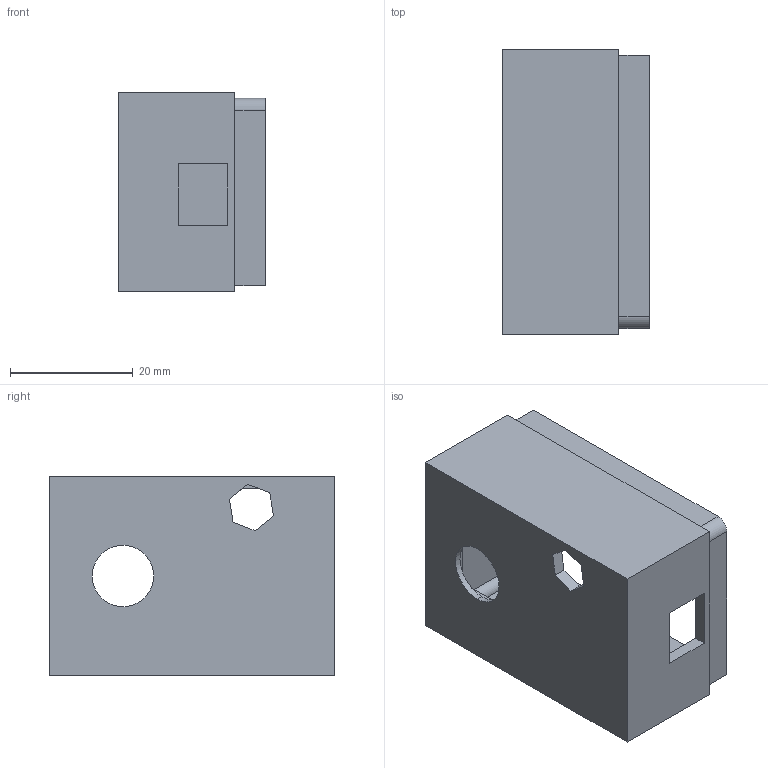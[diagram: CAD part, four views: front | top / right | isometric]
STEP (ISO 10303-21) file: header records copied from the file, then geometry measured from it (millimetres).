
FILE_DESCRIPTION (( 'STEP AP214' ), '1' );
FILE_NAME ('espcam.STEP', '2025-11-06T14:26:50', ( '' ), ( '' ), 'SwSTEP 2.0', 'SolidWorks 2023', '' );
FILE_SCHEMA (( 'AUTOMOTIVE_DESIGN' ));
Length unit declared in the file: millimetre
Products named in the file (1): espcam
Bounding box: 23.94 x 46.5 x 32.5 mm (x, y, z)
Volume: 8463.8 mm3; surface area: 9646.6 mm2
Topology: 1 solids, 1 shells, 41 faces, 111 edges, 74 vertices
Faces by surface type: plane 35, cylinder 6
Entity records: 1312 total; most frequent: CARTESIAN_POINT 227, ORIENTED_EDGE 222, DIRECTION 207, EDGE_CURVE 111, LINE 99, VECTOR 99, VERTEX_POINT 74, AXIS2_PLACEMENT_3D 54
